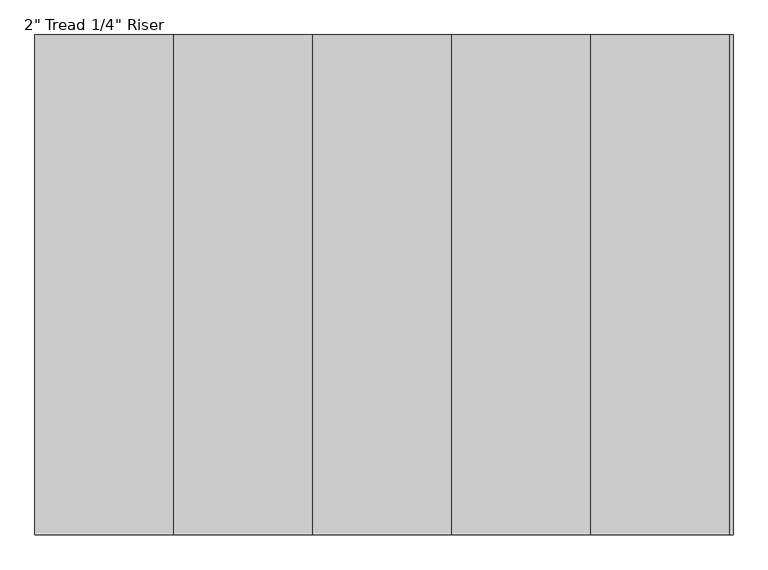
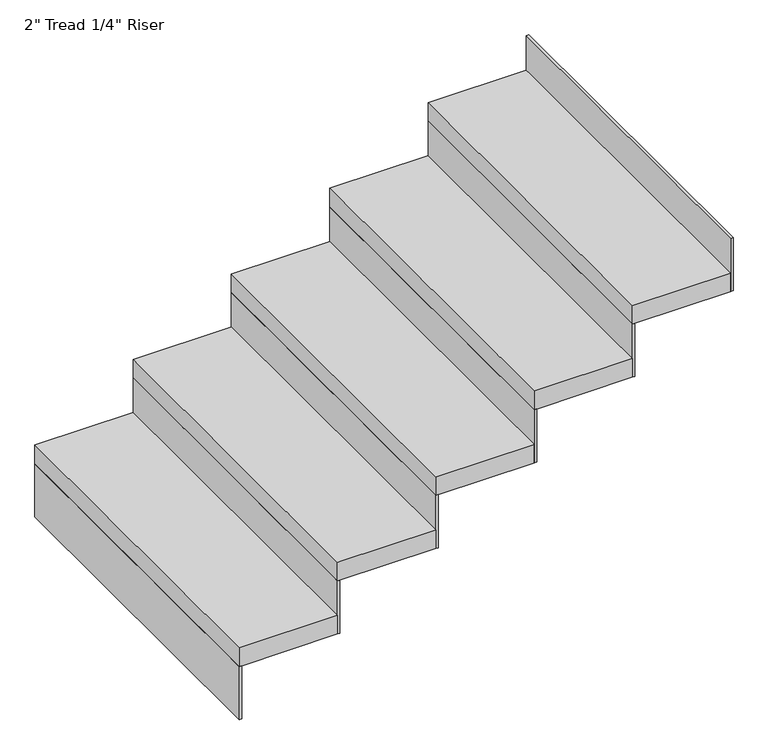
"""IFC4 building model written with IfcOpenShell, lengths in millimetres: stair flight geometry."""

import ifcopenshell
import ifcopenshell.guid

model = None  # the IFC model being written
_history = None  # IfcOwnerHistory: only IFC2X3 demands one
_inside = {}  # id of a spatial element -> (the spatial element, [elements in it])
_under = {}  # id of a project, library or spatial element -> (it, [spatial elements below it])
_declared = {}  # id of a project -> (the project, [libraries it declares])
_typed = {}  # id of a type object -> (the type object, [elements of that type])
_made_of = {}  # id of a material, layer set ... -> (it, [elements and type objects made of it])


def new_model(schema):
    """Start an empty IFC model of exactly this schema.

    Asked for "IFC4X3", IfcOpenShell would pick the latest addendum, in which some entities
    have other attributes; the version numbers below select the first issue.
    IFC2X3 requires an IfcOwnerHistory on every rooted entity: one is made here for all.
    """
    global model, _history
    if schema == "IFC4X3":
        model = ifcopenshell.file(schema_version=(4, 3, 0, 0))
    else:
        model = ifcopenshell.file(schema=schema)
    _inside.clear()
    _under.clear()
    _declared.clear()
    _typed.clear()
    _made_of.clear()
    _history = None
    if model.schema == "IFC2X3":
        org = make("IfcOrganization", Name="unknown")
        user = make(
            "IfcPersonAndOrganization",
            ThePerson=make("IfcPerson", FamilyName="unknown"),
            TheOrganization=org,
        )
        app = make(
            "IfcApplication",
            ApplicationDeveloper=org,
            Version="unknown",
            ApplicationFullName="unknown",
            ApplicationIdentifier="unknown",
        )
        _history = make(
            "IfcOwnerHistory",
            OwningUser=user,
            OwningApplication=app,
            ChangeAction="ADDED",
            CreationDate=0,
        )
    return model


def make(cls, **values):
    """One entity of the class cls with the attributes given. An attribute that is None is left unset."""
    return model.create_entity(
        cls, **{name: value for name, value in values.items() if value is not None}
    )


def rooted(cls, **values):
    """An entity with a GlobalId (a new one), such as an element, a storey or a relation."""
    return make(cls, GlobalId=ifcopenshell.guid.new(), OwnerHistory=_history, **values)


def si_unit(unit_type, name, prefix=None):
    """IfcSIUnit, for example si_unit("LENGTHUNIT", "METRE", prefix="MILLI")."""
    return make("IfcSIUnit", UnitType=unit_type, Prefix=prefix, Name=name)


def assignment(units):
    """IfcUnitAssignment: the units of a project."""
    return None if units is None else make("IfcUnitAssignment", Units=units)


def point(xyz):
    """IfcCartesianPoint."""
    return None if xyz is None else make("IfcCartesianPoint", Coordinates=xyz)


def direction(xyz):
    """IfcDirection."""
    return None if xyz is None else make("IfcDirection", DirectionRatios=xyz)


def frame(location, z_axis=None, x_axis=None):
    """IfcAxis2Placement3D, a coordinate frame: its origin and axes. An axis left out is left unset."""
    return make(
        "IfcAxis2Placement3D",
        Location=point(location),
        Axis=direction(z_axis),
        RefDirection=direction(x_axis),
    )


def origin():
    """The frame at (0, 0, 0) with its axes left unset."""
    return frame((0.0, 0.0, 0.0))


def place(relative_to, where):
    """IfcLocalPlacement: puts the frame where relative to a parent placement (None: the world)."""
    return make(
        "IfcLocalPlacement", PlacementRelTo=relative_to, RelativePlacement=where
    )


def context(
    kind, dimensions, precision=None, world=None, true_north=None, identifier=None
):
    """IfcGeometricRepresentationContext, for example the 3D "Model" context."""
    return make(
        "IfcGeometricRepresentationContext",
        ContextIdentifier=identifier,
        ContextType=kind,
        CoordinateSpaceDimension=dimensions,
        Precision=precision,
        WorldCoordinateSystem=world,
        TrueNorth=true_north,
    )


def project(units=None, contexts=None):
    """IfcProject with its units and contexts."""
    return rooted(
        "IfcProject",
        Name="project",
        RepresentationContexts=contexts,
        UnitsInContext=assignment(units),
    )


def spatial(cls, under=None, at=None, **own):
    """A site, building, storey or space (cls), placed at a placement, below another one or the project."""
    s = rooted(cls, ObjectPlacement=at, **own)
    if under is not None:
        _under.setdefault(under.id(), (under, []))[1].append(s)
    return s


def polyline(points):
    """IfcPolyline through the points."""
    return make("IfcPolyline", Points=[point(p) for p in points])


def outline(outer, holes=None, kind="AREA"):
    """IfcArbitraryClosedProfileDef: a profile drawn as a closed curve; with holes, ...WithVoids."""
    if holes is None:
        return make("IfcArbitraryClosedProfileDef", ProfileType=kind, OuterCurve=outer)
    return make(
        "IfcArbitraryProfileDefWithVoids",
        ProfileType=kind,
        OuterCurve=outer,
        InnerCurves=holes,
    )


def extrude(swept, where, along, depth):
    """IfcExtrudedAreaSolid: the profile swept, set in the frame where, extruded along a direction by depth."""
    return make(
        "IfcExtrudedAreaSolid",
        SweptArea=swept,
        Position=where,
        ExtrudedDirection=direction(along),
        Depth=depth,
    )


def shape(context_of_items, identifier, shape_type, items):
    """IfcShapeRepresentation: the items that make up one representation, for example the "Body"."""
    return make(
        "IfcShapeRepresentation",
        ContextOfItems=context_of_items,
        RepresentationIdentifier=identifier,
        RepresentationType=shape_type,
        Items=items,
    )


def source(mapping_origin, context_of_items, identifier, shape_type, items):
    """IfcRepresentationMap: a shape defined once, which mapped items show again and again."""
    return make(
        "IfcRepresentationMap",
        MappingOrigin=mapping_origin,
        MappedRepresentation=shape(context_of_items, identifier, shape_type, items),
    )


def transform(
    local_origin,
    x_axis=None,
    y_axis=None,
    z_axis=None,
    scale=None,
    scale2=None,
    scale3=None,
    uniform=True,
):
    """IfcCartesianTransformationOperator3D, or its non-uniform kind. x_axis, y_axis, z_axis: its Axis1, 2, 3."""
    if uniform:
        return make(
            "IfcCartesianTransformationOperator3D",
            Axis1=direction(x_axis),
            Axis2=direction(y_axis),
            LocalOrigin=point(local_origin),
            Scale=scale,
            Axis3=direction(z_axis),
        )
    return make(
        "IfcCartesianTransformationOperator3DnonUniform",
        Axis1=direction(x_axis),
        Axis2=direction(y_axis),
        LocalOrigin=point(local_origin),
        Scale=scale,
        Axis3=direction(z_axis),
        Scale2=scale2,
        Scale3=scale3,
    )


def mapped(mapping_source, mapping_target):
    """IfcMappedItem: shows the shape of a source again, moved by a transform."""
    return make(
        "IfcMappedItem", MappingSource=mapping_source, MappingTarget=mapping_target
    )


def made_of(thing, what):
    """Note that an element or type object is made of a material, layer set ...; save() writes the relation."""
    if what is not None:
        _made_of.setdefault(what.id(), (what, []))[1].append(thing)
    return thing


def element(
    cls,
    number,
    at=None,
    inside=None,
    cuts=None,
    type_object=None,
    material=None,
    context=None,
    identifier="Body",
    shape_type=None,
    held_by="IfcProductDefinitionShape",
    body=None,
    shapes=None,
    **own,
):
    """One element of the class cls, such as IfcWall. Its Tag is "e" and its number.

    at: its placement. inside: the storey or other place that contains it. cuts: it is an
    opening in that element (IfcRelVoidsElement). A single representation is given by context,
    identifier, shape_type and body (its items); several are given by shapes. held_by: the class
    of the entity that holds the representations. save() writes the other relations.
    """
    e = rooted(cls, Tag="e%d" % number, ObjectPlacement=at, **own)
    if body is not None:
        shapes = [shape(context, identifier, shape_type, body)]
    if shapes is not None:
        e.Representation = make(held_by, Representations=shapes)
    if inside is not None:
        _inside.setdefault(inside.id(), (inside, []))[1].append(e)
    if cuts is not None:
        rooted(
            "IfcRelVoidsElement", RelatingBuildingElement=cuts, RelatedOpeningElement=e
        )
    if type_object is not None:
        _typed.setdefault(type_object.id(), (type_object, []))[1].append(e)
    return made_of(e, material)


def aggregate(whole, parts):
    """IfcRelAggregates: a whole, such as a stair, and the parts it consists of."""
    return rooted("IfcRelAggregates", RelatingObject=whole, RelatedObjects=parts)


def save(model, path):
    """Write the relations noted so far, then the file.

    IfcRelAggregates (storeys below a building ...), IfcRelContainedInSpatialStructure (elements
    in a storey), IfcRelDefinesByType, IfcRelAssociatesMaterial and IfcRelDeclares: one each for
    every whole, place, type object, material and project.
    """
    for whole, parts in _under.values():
        aggregate(whole, parts)
    for where, things in _inside.values():
        rooted(
            "IfcRelContainedInSpatialStructure",
            RelatedElements=things,
            RelatingStructure=where,
        )
    for kind, things in _typed.values():
        rooted("IfcRelDefinesByType", RelatedObjects=things, RelatingType=kind)
    for what, things in _made_of.values():
        rooted("IfcRelAssociatesMaterial", RelatedObjects=things, RelatingMaterial=what)
    for by, libraries in _declared.values():
        rooted("IfcRelDeclares", RelatingContext=by, RelatedDefinitions=libraries)
    model.write(path)


def stair_flight_7796f7ba(model_context):
    return source(origin(), model_context, "Body", "SweptSolid", [
        extrude(outline(polyline([(139632.4382982, -2429.8986114), (139626.0882982, -2429.8986114), (139626.0882982, -1515.4986114), (139632.4382982, -1515.4986114), (139632.4382982, -2429.8986114)])), frame((0.0, 0.0, 2126.3428571), z_axis=(0.0, 0.0, 1.0), x_axis=(1.0, 0.0, 0.0)), (0.0, 0.0, 1.0), 145.1428571),
        extrude(outline(polyline([(139880.0882982, -1515.4986114), (139880.0882982, -2429.8986114), (139626.0882982, -2429.8986114), (139626.0882982, -1515.4986114), (139880.0882982, -1515.4986114)])), frame((0.0, 0.0, 2271.4857143), z_axis=(0.0, 0.0, 1.0), x_axis=(1.0, 0.0, 0.0)), (0.0, 0.0, 1.0), 50.8),
        extrude(outline(polyline([(139886.4382982, -2429.8986114), (139880.0882982, -2429.8986114), (139880.0882982, -1515.4986114), (139886.4382982, -1515.4986114), (139886.4382982, -2429.8986114)])), frame((0.0, 0.0, 2271.4857143), z_axis=(0.0, 0.0, 1.0), x_axis=(1.0, 0.0, 0.0)), (0.0, 0.0, 1.0), 145.1428571),
        extrude(outline(polyline([(140134.0882982, -1515.4986114), (140134.0882982, -2429.8986114), (139880.0882982, -2429.8986114), (139880.0882982, -1515.4986114), (140134.0882982, -1515.4986114)])), frame((0.0, 0.0, 2416.6285714), z_axis=(0.0, 0.0, 1.0), x_axis=(1.0, 0.0, 0.0)), (0.0, 0.0, 1.0), 50.8),
        extrude(outline(polyline([(140140.4382982, -2429.8986114), (140134.0882982, -2429.8986114), (140134.0882982, -1515.4986114), (140140.4382982, -1515.4986114), (140140.4382982, -2429.8986114)])), frame((0.0, 0.0, 2416.6285714), z_axis=(0.0, 0.0, 1.0), x_axis=(1.0, 0.0, 0.0)), (0.0, 0.0, 1.0), 145.1428571),
        extrude(outline(polyline([(140388.0882982, -1515.4986114), (140388.0882982, -2429.8986114), (140134.0882982, -2429.8986114), (140134.0882982, -1515.4986114), (140388.0882982, -1515.4986114)])), frame((0.0, 0.0, 2561.7714286), z_axis=(0.0, 0.0, 1.0), x_axis=(1.0, 0.0, 0.0)), (0.0, 0.0, 1.0), 50.8),
        extrude(outline(polyline([(140394.4382982, -2429.8986114), (140388.0882982, -2429.8986114), (140388.0882982, -1515.4986114), (140394.4382982, -1515.4986114), (140394.4382982, -2429.8986114)])), frame((0.0, 0.0, 2561.7714286), z_axis=(0.0, 0.0, 1.0), x_axis=(1.0, 0.0, 0.0)), (0.0, 0.0, 1.0), 145.1428571),
        extrude(outline(polyline([(140642.0882982, -1515.4986114), (140642.0882982, -2429.8986114), (140388.0882982, -2429.8986114), (140388.0882982, -1515.4986114), (140642.0882982, -1515.4986114)])), frame((0.0, 0.0, 2706.9142857), z_axis=(0.0, 0.0, 1.0), x_axis=(1.0, 0.0, 0.0)), (0.0, 0.0, 1.0), 50.8),
        extrude(outline(polyline([(140648.4382982, -2429.8986114), (140642.0882982, -2429.8986114), (140642.0882982, -1515.4986114), (140648.4382982, -1515.4986114), (140648.4382982, -2429.8986114)])), frame((0.0, 0.0, 2706.9142857), z_axis=(0.0, 0.0, 1.0), x_axis=(1.0, 0.0, 0.0)), (0.0, 0.0, 1.0), 145.1428571),
        extrude(outline(polyline([(140902.4382982, -2429.8986114), (140896.0882982, -2429.8986114), (140896.0882982, -1515.4986114), (140902.4382982, -1515.4986114), (140902.4382982, -2429.8986114)])), frame((0.0, 0.0, 2852.0571429), z_axis=(0.0, 0.0, 1.0), x_axis=(1.0, 0.0, 0.0)), (0.0, 0.0, 1.0), 145.1428571),
        extrude(outline(polyline([(140896.0882982, -1515.4986114), (140896.0882982, -2429.8986114), (140642.0882982, -2429.8986114), (140642.0882982, -1515.4986114), (140896.0882982, -1515.4986114)])), frame((0.0, 0.0, 2852.0571429), z_axis=(0.0, 0.0, 1.0), x_axis=(1.0, 0.0, 0.0)), (0.0, 0.0, 1.0), 50.8),
    ])


if __name__ == "__main__":
    model = new_model("IFC4")
    model_context = context("Model", 3, world=origin())
    ifc_project = project(units=[si_unit("LENGTHUNIT", "METRE", prefix="MILLI")], contexts=[model_context])
    site = spatial("IfcSite", under=ifc_project)
    building = spatial("IfcBuilding", under=site)
    placement = place(None, origin())
    stair_flight_shape = stair_flight_7796f7ba(model_context)
    element("IfcStairFlight", 1, ObjectType="2\" Tread 1/4\" Riser", at=placement, inside=building, context=model_context, shape_type="MappedRepresentation", body=[
        mapped(stair_flight_shape, transform((0.0, 0.0, 0.0), x_axis=(1.0, 0.0, 0.0), y_axis=(0.0, 1.0, 0.0), z_axis=(0.0, 0.0, 1.0))),
    ])
    save(model, "model.ifc")
